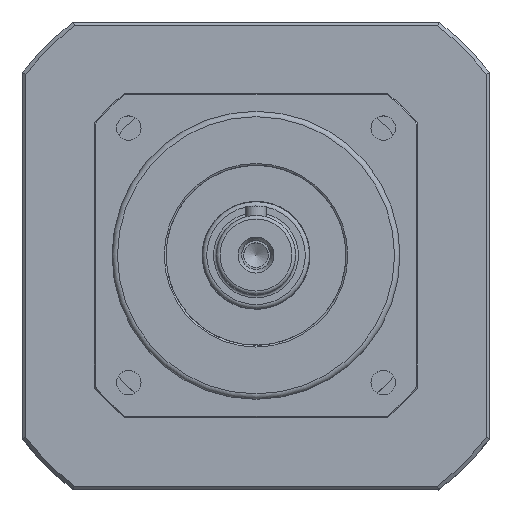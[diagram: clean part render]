
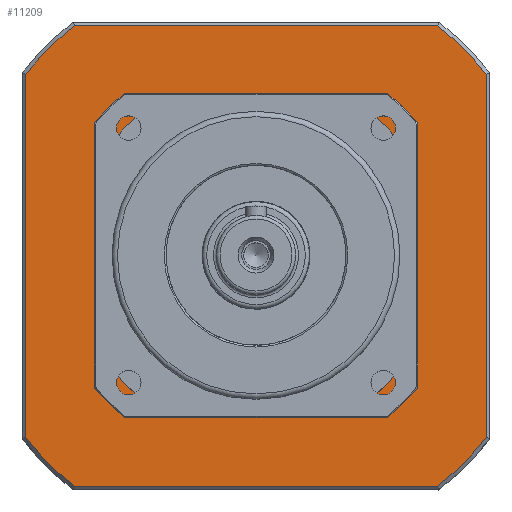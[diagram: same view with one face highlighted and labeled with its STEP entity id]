
A CAD part, top view. The second image highlights one B-rep face of the part: STEP entity #11209.
In plain terms, the highlighted planar face has unit normal (0, 0, 1).
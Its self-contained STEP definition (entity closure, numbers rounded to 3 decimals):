
#11064=CARTESIAN_POINT('',(0.,0.,-90.5));
#11065=DIRECTION('',(0.0,0.0,1.0));
#11066=DIRECTION('',(1.0,0.0,0.0));
#11067=AXIS2_PLACEMENT_3D('',#11064,#11065,#11066);
#11068=PLANE('',#11067);
#11069=CARTESIAN_POINT('',(50.457,-64.003,-90.5));
#11070=VERTEX_POINT('',#11069);
#11071=CARTESIAN_POINT('',(63.997,-50.464,-90.5));
#11072=VERTEX_POINT('',#11071);
#11073=CARTESIAN_POINT('',(0.,0.,-90.5));
#11074=DIRECTION('',(0.0,0.0,1.0));
#11075=DIRECTION('',(1.,0.,0.0));
#11076=AXIS2_PLACEMENT_3D('',#11073,#11074,#11075);
#11077=CIRCLE('',#11076,81.5);
#11078=EDGE_CURVE('',#11070,#11072,#11077,.T.);
#11079=ORIENTED_EDGE('',*,*,#11078,.T.);
#11080=CARTESIAN_POINT('',(64.003,50.457,-90.5));
#11081=VERTEX_POINT('',#11080);
#11082=CARTESIAN_POINT('',(63.997,-50.464,-90.5));
#11083=DIRECTION('',(0.,1.,0.0));
#11084=VECTOR('',#11083,100.921);
#11085=LINE('',#11082,#11084);
#11086=EDGE_CURVE('',#11072,#11081,#11085,.T.);
#11087=ORIENTED_EDGE('',*,*,#11086,.T.);
#11088=CARTESIAN_POINT('',(50.464,63.997,-90.5));
#11089=VERTEX_POINT('',#11088);
#11090=CARTESIAN_POINT('',(0.,0.,-90.5));
#11091=DIRECTION('',(0.0,0.0,1.0));
#11092=DIRECTION('',(1.,0.,0.0));
#11093=AXIS2_PLACEMENT_3D('',#11090,#11091,#11092);
#11094=CIRCLE('',#11093,81.5);
#11095=EDGE_CURVE('',#11081,#11089,#11094,.T.);
#11096=ORIENTED_EDGE('',*,*,#11095,.T.);
#11097=CARTESIAN_POINT('',(-50.457,64.003,-90.5));
#11098=VERTEX_POINT('',#11097);
#11099=CARTESIAN_POINT('',(50.464,63.997,-90.5));
#11100=DIRECTION('',(-1.,0.,0.0));
#11101=VECTOR('',#11100,100.921);
#11102=LINE('',#11099,#11101);
#11103=EDGE_CURVE('',#11089,#11098,#11102,.T.);
#11104=ORIENTED_EDGE('',*,*,#11103,.T.);
#11105=CARTESIAN_POINT('',(-63.997,50.464,-90.5));
#11106=VERTEX_POINT('',#11105);
#11107=CARTESIAN_POINT('',(0.,0.,-90.5));
#11108=DIRECTION('',(0.0,0.0,1.0));
#11109=DIRECTION('',(1.,0.,0.0));
#11110=AXIS2_PLACEMENT_3D('',#11107,#11108,#11109);
#11111=CIRCLE('',#11110,81.5);
#11112=EDGE_CURVE('',#11098,#11106,#11111,.T.);
#11113=ORIENTED_EDGE('',*,*,#11112,.T.);
#11114=CARTESIAN_POINT('',(-64.003,-50.457,-90.5));
#11115=VERTEX_POINT('',#11114);
#11116=CARTESIAN_POINT('',(-63.997,50.464,-90.5));
#11117=DIRECTION('',(0.,-1.,0.0));
#11118=VECTOR('',#11117,100.921);
#11119=LINE('',#11116,#11118);
#11120=EDGE_CURVE('',#11106,#11115,#11119,.T.);
#11121=ORIENTED_EDGE('',*,*,#11120,.T.);
#11122=CARTESIAN_POINT('',(-50.464,-63.997,-90.5));
#11123=VERTEX_POINT('',#11122);
#11124=CARTESIAN_POINT('',(0.,0.,-90.5));
#11125=DIRECTION('',(0.0,0.0,1.0));
#11126=DIRECTION('',(1.,0.,0.0));
#11127=AXIS2_PLACEMENT_3D('',#11124,#11125,#11126);
#11128=CIRCLE('',#11127,81.5);
#11129=EDGE_CURVE('',#11115,#11123,#11128,.T.);
#11130=ORIENTED_EDGE('',*,*,#11129,.T.);
#11131=CARTESIAN_POINT('',(-50.464,-63.997,-90.5));
#11132=DIRECTION('',(1.,0.,0.0));
#11133=VECTOR('',#11132,100.921);
#11134=LINE('',#11131,#11133);
#11135=EDGE_CURVE('',#11123,#11070,#11134,.T.);
#11136=ORIENTED_EDGE('',*,*,#11135,.T.);
#11137=EDGE_LOOP('',(#11079,#11087,#11096,#11104,#11113,#11121,#11130,#11136));
#11138=FACE_OUTER_BOUND('',#11137,.T.);
#11139=CARTESIAN_POINT('',(-44.999,24.002,-90.5));
#11140=VERTEX_POINT('',#11139);
#11141=CARTESIAN_POINT('',(-45.001,-23.998,-90.5));
#11142=VERTEX_POINT('',#11141);
#11143=CARTESIAN_POINT('',(-44.999,24.002,-90.5));
#11144=DIRECTION('',(0.,-1.,0.0));
#11145=VECTOR('',#11144,48.);
#11146=LINE('',#11143,#11145);
#11147=EDGE_CURVE('',#11140,#11142,#11146,.T.);
#11148=ORIENTED_EDGE('',*,*,#11147,.F.);
#11149=CARTESIAN_POINT('',(-23.998,45.001,-90.5));
#11150=VERTEX_POINT('',#11149);
#11151=CARTESIAN_POINT('',(0.,0.,-90.5));
#11152=DIRECTION('',(0.0,0.0,1.0));
#11153=DIRECTION('',(1.,0.,0.0));
#11154=AXIS2_PLACEMENT_3D('',#11151,#11152,#11153);
#11155=CIRCLE('',#11154,51.);
#11156=EDGE_CURVE('',#11150,#11140,#11155,.T.);
#11157=ORIENTED_EDGE('',*,*,#11156,.F.);
#11158=CARTESIAN_POINT('',(24.002,44.999,-90.5));
#11159=VERTEX_POINT('',#11158);
#11160=CARTESIAN_POINT('',(24.002,44.999,-90.5));
#11161=DIRECTION('',(-1.,0.,0.0));
#11162=VECTOR('',#11161,48.);
#11163=LINE('',#11160,#11162);
#11164=EDGE_CURVE('',#11159,#11150,#11163,.T.);
#11165=ORIENTED_EDGE('',*,*,#11164,.F.);
#11166=CARTESIAN_POINT('',(45.001,23.998,-90.5));
#11167=VERTEX_POINT('',#11166);
#11168=CARTESIAN_POINT('',(0.,0.,-90.5));
#11169=DIRECTION('',(0.0,0.0,1.0));
#11170=DIRECTION('',(1.,0.,0.0));
#11171=AXIS2_PLACEMENT_3D('',#11168,#11169,#11170);
#11172=CIRCLE('',#11171,51.);
#11173=EDGE_CURVE('',#11167,#11159,#11172,.T.);
#11174=ORIENTED_EDGE('',*,*,#11173,.F.);
#11175=CARTESIAN_POINT('',(44.999,-24.002,-90.5));
#11176=VERTEX_POINT('',#11175);
#11177=CARTESIAN_POINT('',(44.999,-24.002,-90.5));
#11178=DIRECTION('',(0.,1.,0.0));
#11179=VECTOR('',#11178,48.);
#11180=LINE('',#11177,#11179);
#11181=EDGE_CURVE('',#11176,#11167,#11180,.T.);
#11182=ORIENTED_EDGE('',*,*,#11181,.F.);
#11183=CARTESIAN_POINT('',(23.998,-45.001,-90.5));
#11184=VERTEX_POINT('',#11183);
#11185=CARTESIAN_POINT('',(0.,0.,-90.5));
#11186=DIRECTION('',(0.0,0.0,1.0));
#11187=DIRECTION('',(1.,0.,0.0));
#11188=AXIS2_PLACEMENT_3D('',#11185,#11186,#11187);
#11189=CIRCLE('',#11188,51.);
#11190=EDGE_CURVE('',#11184,#11176,#11189,.T.);
#11191=ORIENTED_EDGE('',*,*,#11190,.F.);
#11192=CARTESIAN_POINT('',(-24.002,-44.999,-90.5));
#11193=VERTEX_POINT('',#11192);
#11194=CARTESIAN_POINT('',(-24.002,-44.999,-90.5));
#11195=DIRECTION('',(1.,0.,0.0));
#11196=VECTOR('',#11195,48.);
#11197=LINE('',#11194,#11196);
#11198=EDGE_CURVE('',#11193,#11184,#11197,.T.);
#11199=ORIENTED_EDGE('',*,*,#11198,.F.);
#11200=CARTESIAN_POINT('',(0.,0.,-90.5));
#11201=DIRECTION('',(0.0,0.0,1.0));
#11202=DIRECTION('',(1.,0.,0.0));
#11203=AXIS2_PLACEMENT_3D('',#11200,#11201,#11202);
#11204=CIRCLE('',#11203,51.);
#11205=EDGE_CURVE('',#11142,#11193,#11204,.T.);
#11206=ORIENTED_EDGE('',*,*,#11205,.F.);
#11207=EDGE_LOOP('',(#11148,#11157,#11165,#11174,#11182,#11191,#11199,#11206));
#11208=FACE_BOUND('',#11207,.T.);
#11209=ADVANCED_FACE('',(#11138,#11208),#11068,.T.);
